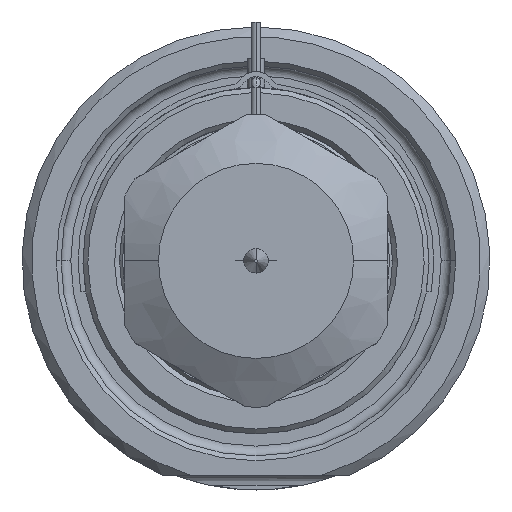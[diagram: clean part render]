
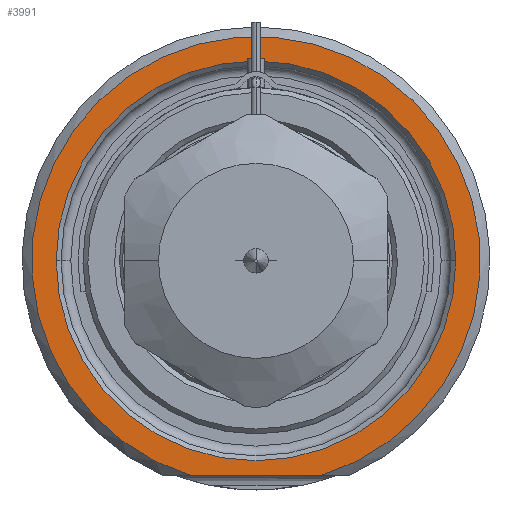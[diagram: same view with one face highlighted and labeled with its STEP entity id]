
A CAD part, front view. The second image highlights one B-rep face of the part: STEP entity #3991.
In plain terms, the highlighted planar face has unit normal (0, -1, 0).
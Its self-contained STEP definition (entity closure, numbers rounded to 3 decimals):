
#1=DIRECTION('',(1.,0.,0.));
#2=VECTOR('',#1,13.416);
#3=CARTESIAN_POINT('',(-6.708,0.,-22.));
#4=LINE('',#3,#2);
#5=CARTESIAN_POINT('',(0.,0.,0.));
#6=DIRECTION('',(0.,1.,0.));
#7=DIRECTION('',(-1.,0.,0.));
#8=AXIS2_PLACEMENT_3D('',#5,#6,#7);
#10=CARTESIAN_POINT('',(0.,0.,0.));
#11=DIRECTION('',(0.,1.,0.));
#12=DIRECTION('',(1.,0.,0.));
#13=AXIS2_PLACEMENT_3D('',#10,#11,#12);
#121=CARTESIAN_POINT('',(0.,0.,0.));
#122=DIRECTION('',(0.,-1.,0.));
#123=DIRECTION('',(0.292,0.,-0.957));
#124=AXIS2_PLACEMENT_3D('',#121,#122,#123);
#3362=CARTESIAN_POINT('',(-20.5,0.,0.));
#3363=CARTESIAN_POINT('',(20.5,0.,0.));
#3364=VERTEX_POINT('',#3362);
#3365=VERTEX_POINT('',#3363);
#3402=CARTESIAN_POINT('',(-6.708,0.,-22.));
#3403=CARTESIAN_POINT('',(6.708,0.,-22.));
#3404=VERTEX_POINT('',#3402);
#3405=VERTEX_POINT('',#3403);
#3974=CARTESIAN_POINT('',(0.,0.,0.));
#3975=DIRECTION('',(0.,-1.,0.));
#3976=DIRECTION('',(1.,0.,0.));
#3977=AXIS2_PLACEMENT_3D('',#3974,#3975,#3976);
#3978=PLANE('',#3977);
#3980=ORIENTED_EDGE('',*,*,#3979,.F.);
#3982=ORIENTED_EDGE('',*,*,#3981,.F.);
#3983=EDGE_LOOP('',(#3980,#3982));
#3984=FACE_OUTER_BOUND('',#3983,.F.);
#3986=ORIENTED_EDGE('',*,*,#3985,.F.);
#3988=ORIENTED_EDGE('',*,*,#3987,.F.);
#3989=EDGE_LOOP('',(#3986,#3988));
#3990=FACE_BOUND('',#3989,.F.);
#3991=ADVANCED_FACE('',(#3984,#3990),#3978,.T.);
#9=CIRCLE('',#8,20.5);
#14=CIRCLE('',#13,20.5);
#125=CIRCLE('',#124,23.);
#3979=EDGE_CURVE('',#3404,#3405,#4,.T.);
#3981=EDGE_CURVE('',#3405,#3404,#125,.T.);
#3985=EDGE_CURVE('',#3364,#3365,#9,.T.);
#3987=EDGE_CURVE('',#3365,#3364,#14,.T.);
